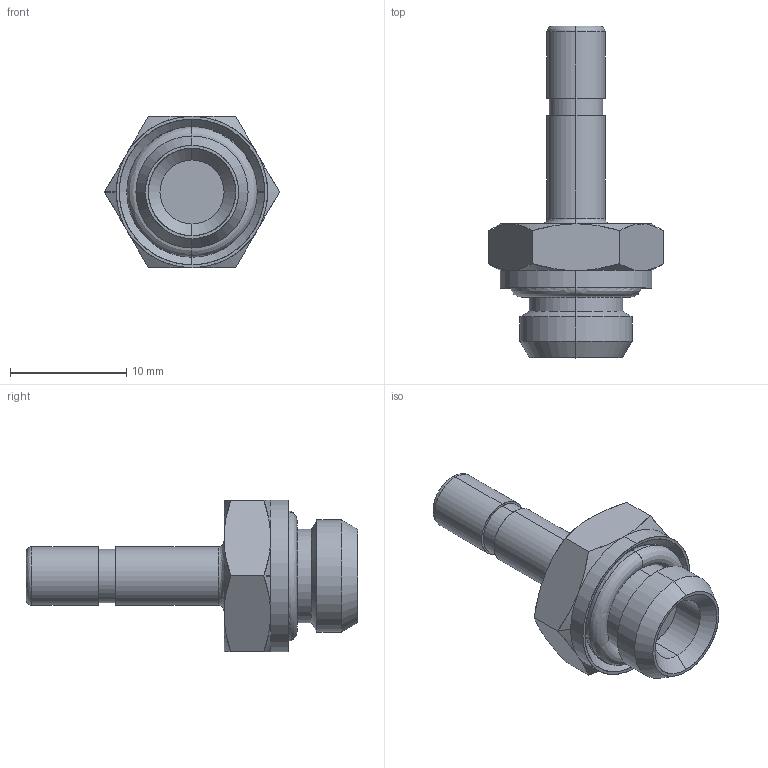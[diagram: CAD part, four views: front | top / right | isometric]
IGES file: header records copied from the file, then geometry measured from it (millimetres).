
Start section: SolidWorks IGES file using analytic representation for surfaces
Global section: file name: K:\Disegni Esecutivi\Serie 50000\ASSIEMI\50600\ASSIEMI_.IGES_50600\5060000013.IGS; native system: SolidWorks 2007; preprocessor: SolidWorks 2007; author: cad02; date: 071012.112845; units: millimetre
Bounding box: 15.01 x 28.5 x 13 mm (x, y, z)
Surface area: 1275.6 mm2 (no closed solid volume)
Topology: 0 solids, 0 shells, 71 faces, 976 edges, 976 vertices
Faces by surface type: revolution 43, bspline 28
